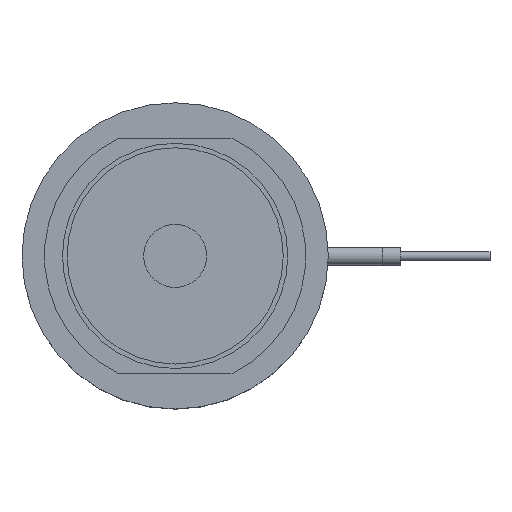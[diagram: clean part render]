
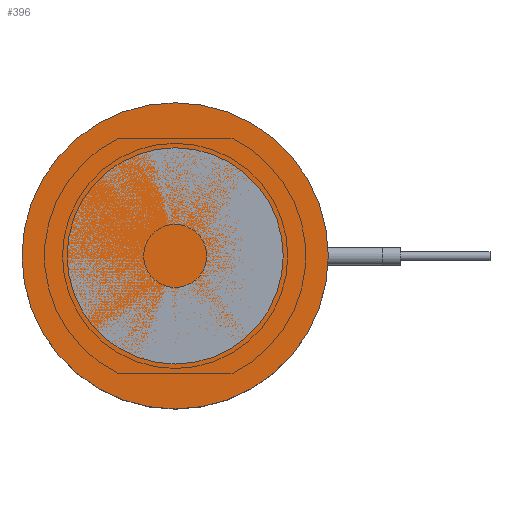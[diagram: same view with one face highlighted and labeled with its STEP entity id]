
A CAD part, top view. The second image highlights one B-rep face of the part: STEP entity #396.
In plain terms, the highlighted planar face has unit normal (0, 0, 1).
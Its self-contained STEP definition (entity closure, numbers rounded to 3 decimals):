
#396=ADVANCED_FACE('',(#496),#437,.F.);
#437=PLANE('',#1344);
#496=FACE_OUTER_BOUND('',#637,.T.);
#637=EDGE_LOOP('',(#873));
#873=ORIENTED_EDGE('',*,*,#1096,.F.);
#977=VERTEX_POINT('',#2169);
#1096=EDGE_CURVE('',#977,#977,#1178,.T.);
#1178=CIRCLE('',#1343,17.);
#1343=AXIS2_PLACEMENT_3D('',#2168,#1702,#1703);
#1344=AXIS2_PLACEMENT_3D('',#2170,#1704,#1705);
#1702=DIRECTION('',(0.,0.,-1.));
#1703=DIRECTION('',(-1.,0.,0.));
#1704=DIRECTION('',(0.,0.,-1.));
#1705=DIRECTION('',(-1.,0.,0.));
#2168=CARTESIAN_POINT('',(0.,0.,0.));
#2169=CARTESIAN_POINT('',(-17.,0.,0.));
#2170=CARTESIAN_POINT('',(0.,0.,0.));
